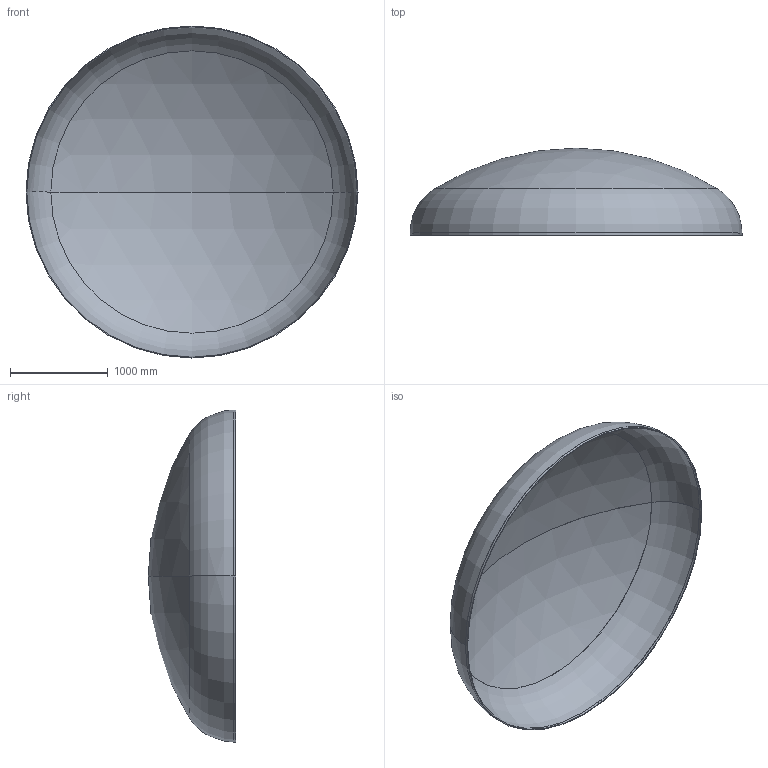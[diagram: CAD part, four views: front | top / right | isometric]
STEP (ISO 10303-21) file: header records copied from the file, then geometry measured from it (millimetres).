
FILE_DESCRIPTION (( 'STEP AP203' ), '1' );
FILE_NAME ('DIN 28013 Korbbogenform_-_Boden DIN 28013 - 3400 x 25 - I - s=8.step', '2016-07-01T19:08:32', ( '' ), ( '' ), 'SwSTEP 2.0', 'SolidWorks 2013', '' );
FILE_SCHEMA (( 'CONFIG_CONTROL_DESIGN' ));
Length unit declared in the file: millimetre
Products named in the file (1): DIN 28013 Korbbogenform_-_Boden DIN 28013 - 3400 x 25 - I - s=8
Bounding box: 3400 x 893.93 x 3400 mm (x, y, z)
Volume: 102475775.6 mm3; surface area: 25704317.7 mm2
Topology: 1 solids, 1 shells, 13 faces, 24 edges, 14 vertices
Faces by surface type: torus 4, cylinder 4, sphere 4, plane 1
Entity records: 407 total; most frequent: DIRECTION 72, CARTESIAN_POINT 52, ORIENTED_EDGE 48, AXIS2_PLACEMENT_3D 34, EDGE_CURVE 24, CIRCLE 20, EDGE_LOOP 14, VERTEX_POINT 14
